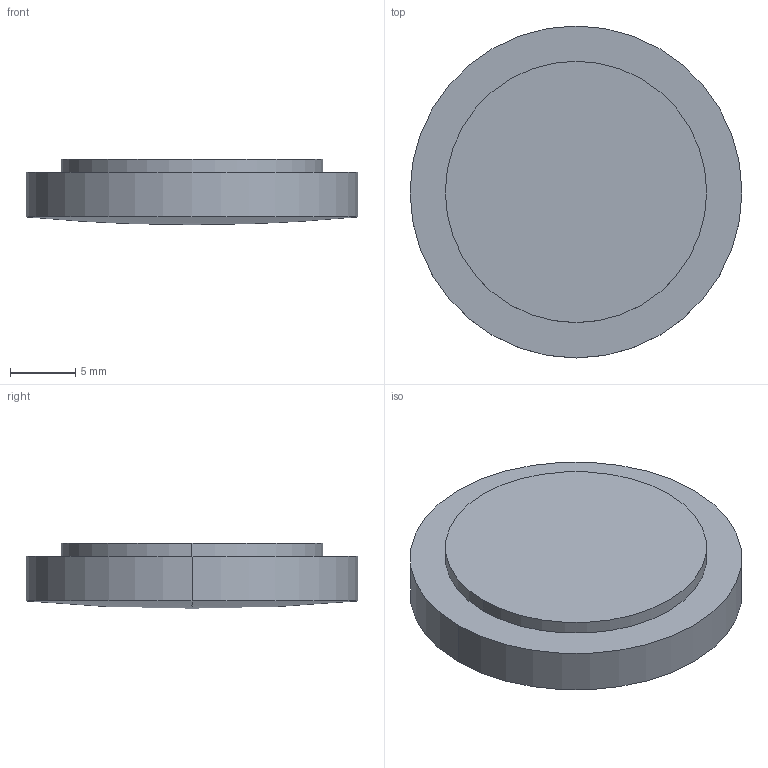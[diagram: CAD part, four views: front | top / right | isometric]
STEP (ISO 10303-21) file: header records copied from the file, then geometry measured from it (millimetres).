
FILE_DESCRIPTION(('STEP AP214'),'1');
FILE_NAME('LLQ-25300.STEP','2020-03-09T17:41:47',(' '),(' '),'Spatial InterOp 3D',' ',' ');
FILE_SCHEMA(('AUTOMOTIVE_DESIGN { 1 0 10303 214 1 1 1 1 }'));
Length unit declared in the file: millimetre
Products named in the file (1): 1
Bounding box: 25.4 x 25.4 x 5 mm (x, y, z)
Volume: 2191.4 mm3; surface area: 1977.7 mm2
Topology: 2 solids, 2 shells, 9 faces, 16 edges, 9 vertices
Faces by surface type: cylinder 4, plane 3, sphere 2
Entity records: 229 total; most frequent: DIRECTION 46, CARTESIAN_POINT 34, ORIENTED_EDGE 28, AXIS2_PLACEMENT_3D 21, EDGE_CURVE 14, CIRCLE 10, ADVANCED_FACE 9, FACE_OUTER_BOUND 9
